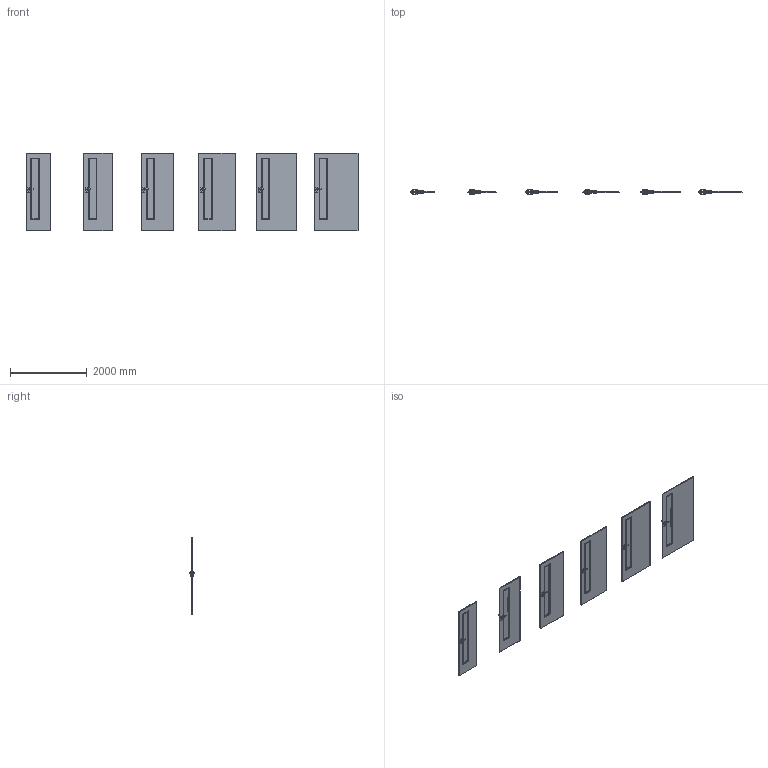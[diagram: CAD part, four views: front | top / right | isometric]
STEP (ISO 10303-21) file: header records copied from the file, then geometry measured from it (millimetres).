
FILE_DESCRIPTION(/* description */ (''),/* implementation_level */ '2;1');
FILE_NAME(/* name */ '049717_A_2-Skrzydło CPL model 1.5_ polska norma _PN__ przylgowe..stp',/* time_stamp */ '2024-02-16T10:19:16+01:00',/* author */ (''),/* organization */ (''),/* preprocessor_version */ 'ST-DEVELOPER v16',/* originating_system */ 'SIEMENS PLM Software NX 11.0',/* authorisation */ '');
FILE_SCHEMA (('AUTOMOTIVE_DESIGN { 1 0 10303 214 3 1 1 1 }'));
Products named in the file (1): bkni4C70E1ECxvi9
Bounding box: 8644 x 153.27 x 2030 mm (x, y, z)
Volume: 382335501.1 mm3; surface area: 40744064.6 mm2
Topology: 217 solids, 217 shells, 4032 faces, 10266 edges, 6548 vertices
Faces by surface type: plane 2394, bspline 1182, cylinder 288, sphere 168
Entity records: 136285 total; most frequent: CARTESIAN_POINT 47979, ORIENTED_EDGE 20196, DIRECTION 14360, EDGE_CURVE 10098, LINE 6858, VECTOR 6858, VERTEX_POINT 6548, EDGE_LOOP 4116
